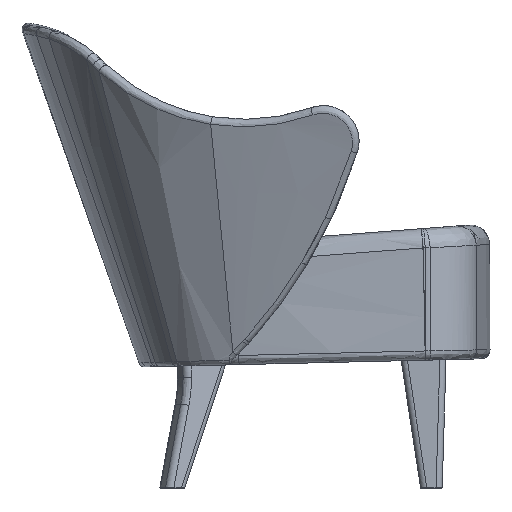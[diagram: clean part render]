
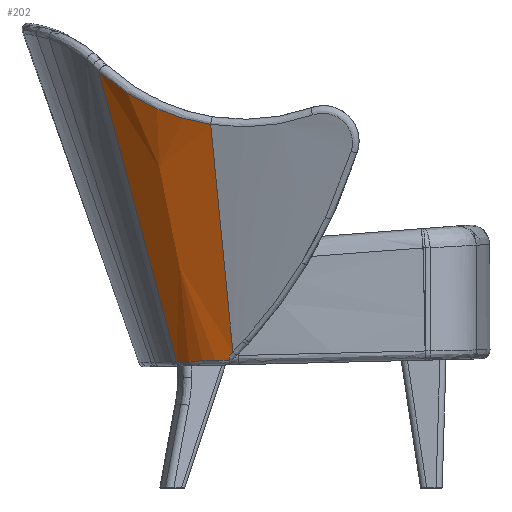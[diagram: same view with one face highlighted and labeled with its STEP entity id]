
A CAD part, left-side view. The second image highlights one B-rep face of the part: STEP entity #202.
In plain terms, the highlighted free-form (B-spline) face has degree [3, 3] with [4, 6] control points.
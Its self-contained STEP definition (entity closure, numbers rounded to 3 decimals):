
#202=ADVANCED_FACE('',(#463),#3941,.T.);
#463=FACE_OUTER_BOUND('',#735,.T.);
#735=EDGE_LOOP('',(#1443,#1444,#1445,#1446,#1447,#1448));
#1443=ORIENTED_EDGE('',*,*,#2441,.F.);
#1444=ORIENTED_EDGE('',*,*,#2418,.F.);
#1445=ORIENTED_EDGE('',*,*,#2394,.F.);
#1446=ORIENTED_EDGE('',*,*,#2412,.F.);
#1447=ORIENTED_EDGE('',*,*,#2393,.T.);
#1448=ORIENTED_EDGE('',*,*,#2377,.T.);
#2377=EDGE_CURVE('',#3526,#3524,#3152,.T.);
#2393=EDGE_CURVE('',#3537,#3526,#3164,.T.);
#2394=EDGE_CURVE('',#3541,#3540,#3165,.T.);
#2412=EDGE_CURVE('',#3537,#3541,#3178,.T.);
#2418=EDGE_CURVE('',#3540,#3539,#3181,.T.);
#2441=EDGE_CURVE('',#3539,#3524,#3199,.T.);
#3152=B_SPLINE_CURVE_WITH_KNOTS('',3,(#12759,#12760,#12761,#12762,#12763),
 .UNSPECIFIED.,.F.,.F.,(4,1,4),(-101.564,-58.036,0.),
 .UNSPECIFIED.);
#3164=B_SPLINE_CURVE_WITH_KNOTS('',1,(#12816,#12817),.UNSPECIFIED.,.F.,
 .F.,(2,2),(-494.182,0.),.UNSPECIFIED.);
#3165=B_SPLINE_CURVE_WITH_KNOTS('',1,(#12818,#12819),.UNSPECIFIED.,.F.,
 .F.,(2,2),(-383.091,0.),.UNSPECIFIED.);
#3178=B_SPLINE_CURVE_WITH_KNOTS('',3,(#12903,#12904,#12905,#12906,#12907,
#12908,#12909),.UNSPECIFIED.,.F.,.F.,(4,1,1,1,4),(0.,62.761,125.521,
188.282,219.662),.UNSPECIFIED.);
#3181=B_SPLINE_CURVE_WITH_KNOTS('',3,(#12932,#12933,#12934,#12935),
 .UNSPECIFIED.,.F.,.F.,(4,4),(0.,9.295),.UNSPECIFIED.);
#3199=B_SPLINE_CURVE_WITH_KNOTS('',3,(#13045,#13046,#13047,#13048),
 .UNSPECIFIED.,.F.,.F.,(4,4),(0.,7.157),.UNSPECIFIED.);
#3524=VERTEX_POINT('',#9991);
#3526=VERTEX_POINT('',#9993);
#3537=VERTEX_POINT('',#10004);
#3539=VERTEX_POINT('',#10006);
#3540=VERTEX_POINT('',#10007);
#3541=VERTEX_POINT('',#10008);
#3941=B_SPLINE_SURFACE_WITH_KNOTS('',3,3,((#8638,#8639,#8640,#8641,#8642,
#8643),(#8644,#8645,#8646,#8647,#8648,#8649),(#8650,#8651,#8652,#8653,#8654,
#8655),(#8656,#8657,#8658,#8659,#8660,#8661)),.UNSPECIFIED.,.F.,.F.,.F.,
(4,4),(4,1,1,4),(0.,494.182),(0.,
57.904,115.808,202.663),.UNSPECIFIED.);
#8638=CARTESIAN_POINT('',(-667.887,140.75,206.53));
#8639=CARTESIAN_POINT('',(-665.903,150.877,206.292));
#8640=CARTESIAN_POINT('',(-660.109,170.764,205.825));
#8641=CARTESIAN_POINT('',(-643.934,203.178,205.064));
#8642=CARTESIAN_POINT('',(-627.452,223.257,204.592));
#8643=CARTESIAN_POINT('',(-616.149,233.768,204.345));
#8644=CARTESIAN_POINT('',(-704.983,156.09,363.725));
#8645=CARTESIAN_POINT('',(-702.458,169.134,363.533));
#8646=CARTESIAN_POINT('',(-695.052,194.76,363.158));
#8647=CARTESIAN_POINT('',(-674.304,236.558,362.545));
#8648=CARTESIAN_POINT('',(-653.116,262.478,362.165));
#8649=CARTESIAN_POINT('',(-638.567,276.053,361.966));
#8650=CARTESIAN_POINT('',(-742.08,171.43,520.919));
#8651=CARTESIAN_POINT('',(-739.011,187.391,520.775));
#8652=CARTESIAN_POINT('',(-729.994,218.755,520.49));
#8653=CARTESIAN_POINT('',(-704.675,269.938,520.026));
#8654=CARTESIAN_POINT('',(-678.777,301.696,519.738));
#8655=CARTESIAN_POINT('',(-660.986,318.338,519.588));
#8656=CARTESIAN_POINT('',(-779.176,186.77,678.114));
#8657=CARTESIAN_POINT('',(-775.566,205.649,678.016));
#8658=CARTESIAN_POINT('',(-764.938,242.751,677.822));
#8659=CARTESIAN_POINT('',(-735.046,303.318,677.507));
#8660=CARTESIAN_POINT('',(-704.441,340.917,677.311));
#8661=CARTESIAN_POINT('',(-683.404,360.623,677.209));
#9991=CARTESIAN_POINT('',(-666.373,148.031,206.655));
#9993=CARTESIAN_POINT('',(-616.149,233.768,204.345));
#10004=CARTESIAN_POINT('',(-683.404,360.623,677.209));
#10006=CARTESIAN_POINT('',(-668.127,148.215,213.591));
#10007=CARTESIAN_POINT('',(-671.045,142.055,219.91));
#10008=CARTESIAN_POINT('',(-758.639,178.278,591.089));
#12759=CARTESIAN_POINT('',(-616.149,233.768,204.345));
#12760=CARTESIAN_POINT('',(-626.703,223.975,204.627));
#12761=CARTESIAN_POINT('',(-648.455,198.019,205.351));
#12762=CARTESIAN_POINT('',(-661.863,166.696,206.176));
#12763=CARTESIAN_POINT('',(-666.373,148.031,206.655));
#12816=CARTESIAN_POINT('',(-683.404,360.623,677.209));
#12817=CARTESIAN_POINT('',(-616.149,233.768,204.345));
#12818=CARTESIAN_POINT('',(-758.639,178.278,591.089));
#12819=CARTESIAN_POINT('',(-671.045,142.055,219.91));
#12903=CARTESIAN_POINT('',(-683.404,360.623,677.209));
#12904=CARTESIAN_POINT('',(-692.645,346.946,664.759));
#12905=CARTESIAN_POINT('',(-711.166,317.488,642.038));
#12906=CARTESIAN_POINT('',(-735.772,266.639,614.713));
#12907=CARTESIAN_POINT('',(-751.175,218.981,598.649));
#12908=CARTESIAN_POINT('',(-757.086,188.551,592.651));
#12909=CARTESIAN_POINT('',(-758.639,178.278,591.089));
#12932=CARTESIAN_POINT('',(-671.045,142.055,219.91));
#12933=CARTESIAN_POINT('',(-670.115,144.111,217.79));
#12934=CARTESIAN_POINT('',(-669.143,146.165,215.683));
#12935=CARTESIAN_POINT('',(-668.127,148.215,213.591));
#13045=CARTESIAN_POINT('',(-668.127,148.215,213.591));
#13046=CARTESIAN_POINT('',(-667.542,148.153,211.278));
#13047=CARTESIAN_POINT('',(-666.958,148.092,208.966));
#13048=CARTESIAN_POINT('',(-666.373,148.031,206.655));
